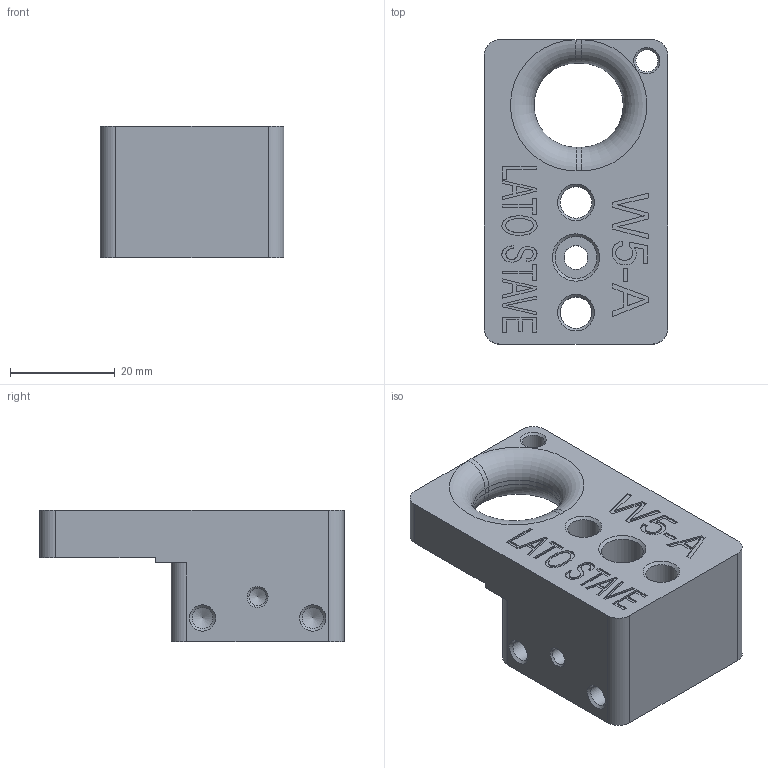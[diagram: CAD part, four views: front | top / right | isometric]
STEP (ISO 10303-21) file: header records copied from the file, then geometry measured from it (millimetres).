
FILE_DESCRIPTION(/* description */ (''),/* implementation_level */ '2;1');
FILE_NAME(/* name */ 'WHEELS-INSERT.02.stp',/* time_stamp */ '2018-10-12T17:05:50+02:00',/* author */ (''),/* organization */ (''),/* preprocessor_version */ 'ST-DEVELOPER v16.7',/* originating_system */ 'SIEMENS PLM Software NX 12.0',/* authorisation */ '');
FILE_SCHEMA (('AP203_CONFIGURATION_CONTROLLED_3D_DESIGN_OF_MECHANICAL_PARTS_AND_ASSEMBLIES_MIM_LF { 1 0 10303 403 2 1 2}'));
Length unit declared in the file: millimetre
Products named in the file (1): turc1934B35Eh69p
Bounding box: 35 x 58 x 25 mm (x, y, z)
Volume: 31324.6 mm3; surface area: 9839.6 mm2
Topology: 1 solids, 1 shells, 186 faces, 490 edges, 322 vertices
Faces by surface type: plane 118, extrusion 24, cylinder 22, cone 18, torus 4
Full cylindrical faces by diameter (mm): 3.3 x1, 4 x2, 4.2 x3, 4.5 x1, 6 x2, 8 x1
Entity records: 6284 total; most frequent: CARTESIAN_POINT 2116, ORIENTED_EDGE 882, DIRECTION 648, EDGE_CURVE 441, VERTEX_POINT 306, B_SPLINE_CURVE_WITH_KNOTS 246, EDGE_LOOP 240, AXIS2_PLACEMENT_3D 234
